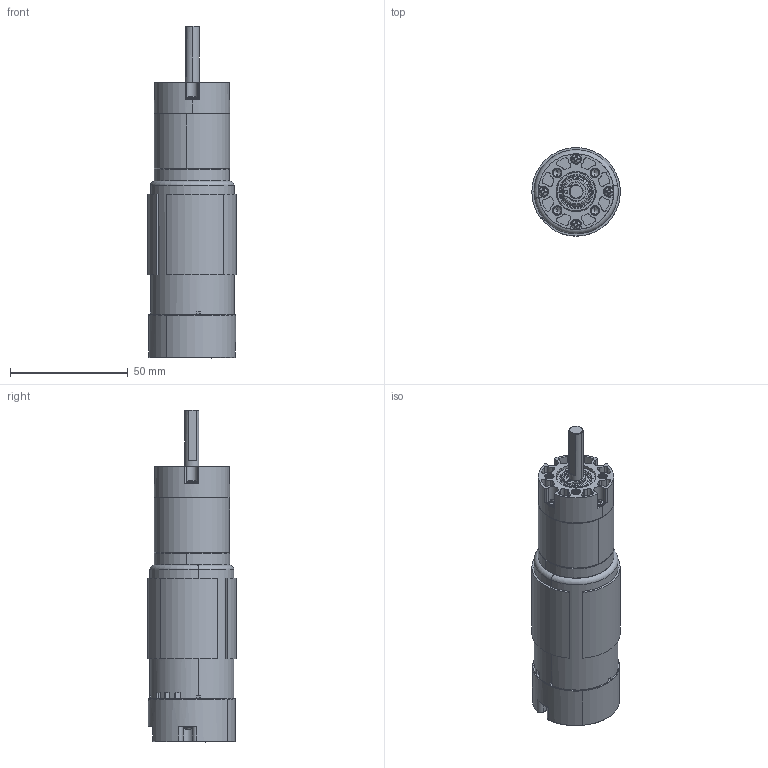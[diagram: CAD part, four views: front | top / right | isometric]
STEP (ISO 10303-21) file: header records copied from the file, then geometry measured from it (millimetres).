
FILE_DESCRIPTION (( 'STEP AP203' ), '1' );
FILE_NAME ('5202-0002-0014 part.STEP', '2018-09-24T16:17:34', ( '' ), ( '' ), 'SwSTEP 2.0', 'SolidWorks 2016', '' );
FILE_SCHEMA (( 'CONFIG_CONTROL_DESIGN' ));
Length unit declared in the file: millimetre
Products named in the file (1): 5202-0002-0014 part
Bounding box: 37.43 x 37.43 x 140.7 mm (x, y, z)
Volume: 55643.3 mm3; surface area: 41277.2 mm2
Topology: 38 solids, 38 shells, 1541 faces, 4092 edges, 2679 vertices
Faces by surface type: cylinder 667, plane 508, bspline 172, torus 95, cone 85, sphere 14
Entity records: 69492 total; most frequent: CARTESIAN_POINT 34487, ORIENTED_EDGE 8158, DIRECTION 6445, EDGE_CURVE 4079, VERTEX_POINT 2678, AXIS2_PLACEMENT_3D 2346, LINE 1753, VECTOR 1753
